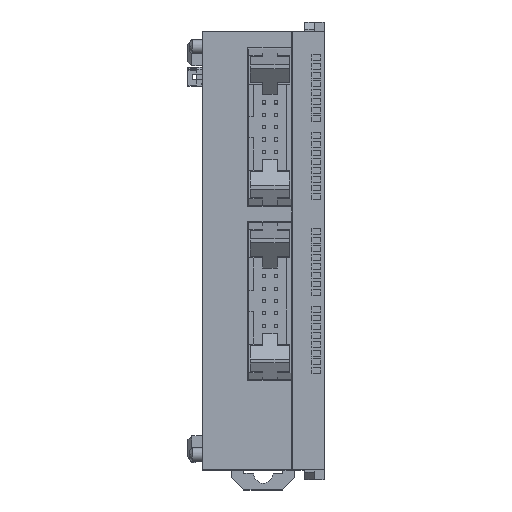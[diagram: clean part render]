
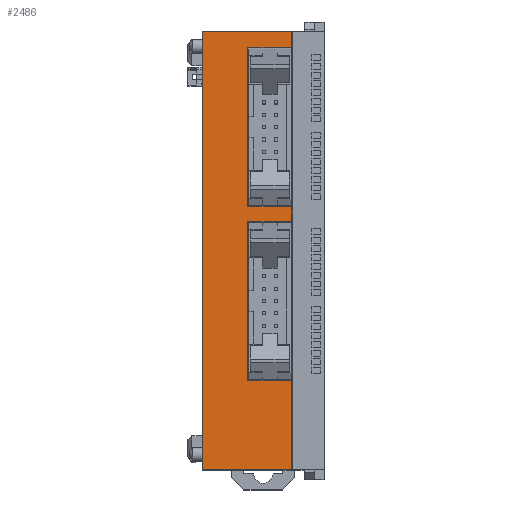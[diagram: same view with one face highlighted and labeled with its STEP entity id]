
A CAD part, top view. The second image highlights one B-rep face of the part: STEP entity #2486.
In plain terms, the highlighted planar face has unit normal (0, 0, 1).
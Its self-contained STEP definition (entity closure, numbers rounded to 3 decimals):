
#520 = DIRECTION ( 'NONE',  ( -1., 0., 0. ) ) ;
#521 = VECTOR ( 'NONE', #520, 1000. ) ;
#522 = CARTESIAN_POINT ( 'NONE',  ( -12.5, 45., 60. ) ) ;
#531 = LINE ( 'NONE', #522, #521 ) ;
#954 = VERTEX_POINT ( 'NONE', #13728 ) ;
#1006 = EDGE_CURVE ( 'NONE', #3095, #954, #13928, .T. ) ;
#2412 = ORIENTED_EDGE ( 'NONE', *, *, #2499, .F. ) ;
#2442 = EDGE_LOOP ( 'NONE', ( #2456, #2455, #2510, #2509, #2484, #2412, #2491, #2507, #2505, #2504, #2495, #2483 ) ) ;
#2454 = VERTEX_POINT ( 'NONE', #13306 ) ;
#2455 = ORIENTED_EDGE ( 'NONE', *, *, #2464, .F. ) ;
#2456 = ORIENTED_EDGE ( 'NONE', *, *, #2459, .F. ) ;
#2459 = EDGE_CURVE ( 'NONE', #2454, #3095, #13432, .T. ) ;
#2461 = EDGE_CURVE ( 'NONE', #2485, #2463, #13424, .T. ) ;
#2463 = VERTEX_POINT ( 'NONE', #13418 ) ;
#2464 = EDGE_CURVE ( 'NONE', #2463, #2454, #13313, .T. ) ;
#2479 = VERTEX_POINT ( 'NONE', #13486 ) ;
#2483 = ORIENTED_EDGE ( 'NONE', *, *, #1006, .F. ) ;
#2484 = ORIENTED_EDGE ( 'NONE', *, *, #2496, .F. ) ;
#2485 = VERTEX_POINT ( 'NONE', #13477 ) ;
#2486 = ADVANCED_FACE ( 'NONE', ( #13457 ), #13405, .T. ) ;
#2491 = ORIENTED_EDGE ( 'NONE', *, *, #2494, .F. ) ;
#2492 = VERTEX_POINT ( 'NONE', #13472 ) ;
#2493 = VERTEX_POINT ( 'NONE', #13443 ) ;
#2494 = EDGE_CURVE ( 'NONE', #11469, #2492, #13452, .T. ) ;
#2495 = ORIENTED_EDGE ( 'NONE', *, *, #12149, .T. ) ;
#2496 = EDGE_CURVE ( 'NONE', #2479, #2493, #13559, .T. ) ;
#2499 = EDGE_CURVE ( 'NONE', #2492, #2479, #13531, .T. ) ;
#2500 = EDGE_CURVE ( 'NONE', #2493, #2485, #13520, .T. ) ;
#2504 = ORIENTED_EDGE ( 'NONE', *, *, #3813, .T. ) ;
#2505 = ORIENTED_EDGE ( 'NONE', *, *, #29115, .T. ) ;
#2507 = ORIENTED_EDGE ( 'NONE', *, *, #11499, .F. ) ;
#2509 = ORIENTED_EDGE ( 'NONE', *, *, #2500, .F. ) ;
#2510 = ORIENTED_EDGE ( 'NONE', *, *, #2461, .F. ) ;
#3095 = VERTEX_POINT ( 'NONE', #15282 ) ;
#3813 = EDGE_CURVE ( 'NONE', #3866, #3817, #16347, .T. ) ;
#3817 = VERTEX_POINT ( 'NONE', #16338 ) ;
#3866 = VERTEX_POINT ( 'NONE', #16401 ) ;
#11469 = VERTEX_POINT ( 'NONE', #27566 ) ;
#11498 = VERTEX_POINT ( 'NONE', #27610 ) ;
#11499 = EDGE_CURVE ( 'NONE', #11498, #11469, #27551, .T. ) ;
#12149 = EDGE_CURVE ( 'NONE', #3817, #954, #28243, .T. ) ;
#13306 = CARTESIAN_POINT ( 'NONE',  ( -3.2, -26.7, 60. ) ) ;
#13313 = LINE ( 'NONE', #13409, #13407 ) ;
#13405 = PLANE ( 'NONE',  #13456 ) ;
#13406 = DIRECTION ( 'NONE',  ( 0., -1., 0. ) ) ;
#13407 = VECTOR ( 'NONE', #13406, 1000. ) ;
#13409 = CARTESIAN_POINT ( 'NONE',  ( -3.2, 6., 60. ) ) ;
#13418 = CARTESIAN_POINT ( 'NONE',  ( -3.2, 6., 60. ) ) ;
#13419 = DIRECTION ( 'NONE',  ( -1., 0., 0. ) ) ;
#13421 = VECTOR ( 'NONE', #13419, 1000. ) ;
#13423 = CARTESIAN_POINT ( 'NONE',  ( 5.8, 6., 60. ) ) ;
#13424 = LINE ( 'NONE', #13423, #13421 ) ;
#13429 = DIRECTION ( 'NONE',  ( 1., 0., 0. ) ) ;
#13430 = VECTOR ( 'NONE', #13429, 1000. ) ;
#13431 = CARTESIAN_POINT ( 'NONE',  ( 5.8, -26.7, 60. ) ) ;
#13432 = LINE ( 'NONE', #13431, #13430 ) ;
#13443 = CARTESIAN_POINT ( 'NONE',  ( 5.8, 9., 60. ) ) ;
#13445 = DIRECTION ( 'NONE',  ( 1., 0., 0. ) ) ;
#13447 = DIRECTION ( 'NONE',  ( 0., 0., 1. ) ) ;
#13452 = LINE ( 'NONE', #13554, #13553 ) ;
#13456 = AXIS2_PLACEMENT_3D ( 'NONE', #13461, #13447, #13445 ) ;
#13457 = FACE_OUTER_BOUND ( 'NONE', #2442, .T. ) ;
#13461 = CARTESIAN_POINT ( 'NONE',  ( -12.5, -45., 60. ) ) ;
#13472 = CARTESIAN_POINT ( 'NONE',  ( -3.2, 41.7, 60. ) ) ;
#13477 = CARTESIAN_POINT ( 'NONE',  ( 5.8, 6., 60. ) ) ;
#13486 = CARTESIAN_POINT ( 'NONE',  ( -3.2, 9., 60. ) ) ;
#13515 = DIRECTION ( 'NONE',  ( 0., -1., 0. ) ) ;
#13516 = VECTOR ( 'NONE', #13515, 1000. ) ;
#13519 = CARTESIAN_POINT ( 'NONE',  ( 5.8, 45., 60. ) ) ;
#13520 = LINE ( 'NONE', #13519, #13516 ) ;
#13523 = DIRECTION ( 'NONE',  ( 0., -1., 0. ) ) ;
#13524 = VECTOR ( 'NONE', #13523, 1000. ) ;
#13526 = CARTESIAN_POINT ( 'NONE',  ( -3.2, 41.7, 60. ) ) ;
#13531 = LINE ( 'NONE', #13526, #13524 ) ;
#13544 = DIRECTION ( 'NONE',  ( 1., 0., 0. ) ) ;
#13546 = VECTOR ( 'NONE', #13544, 1000. ) ;
#13551 = DIRECTION ( 'NONE',  ( -1., 0., 0. ) ) ;
#13553 = VECTOR ( 'NONE', #13551, 1000. ) ;
#13554 = CARTESIAN_POINT ( 'NONE',  ( 5.8, 41.7, 60. ) ) ;
#13558 = CARTESIAN_POINT ( 'NONE',  ( 5.8, 9., 60. ) ) ;
#13559 = LINE ( 'NONE', #13558, #13546 ) ;
#13728 = CARTESIAN_POINT ( 'NONE',  ( 5.8, -45., 60. ) ) ;
#13909 = DIRECTION ( 'NONE',  ( 0., -1., 0. ) ) ;
#13911 = VECTOR ( 'NONE', #13909, 1000. ) ;
#13913 = CARTESIAN_POINT ( 'NONE',  ( 5.8, 45., 60. ) ) ;
#13928 = LINE ( 'NONE', #13913, #13911 ) ;
#15282 = CARTESIAN_POINT ( 'NONE',  ( 5.8, -26.7, 60. ) ) ;
#16336 = DIRECTION ( 'NONE',  ( 0., -1., 0. ) ) ;
#16337 = VECTOR ( 'NONE', #16336, 1000. ) ;
#16338 = CARTESIAN_POINT ( 'NONE',  ( -12.5, -45., 60. ) ) ;
#16347 = LINE ( 'NONE', #16360, #16337 ) ;
#16360 = CARTESIAN_POINT ( 'NONE',  ( -12.5, 45., 60. ) ) ;
#16401 = CARTESIAN_POINT ( 'NONE',  ( -12.5, 45., 60. ) ) ;
#27550 = CARTESIAN_POINT ( 'NONE',  ( 5.8, 45., 60. ) ) ;
#27551 = LINE ( 'NONE', #27550, #27600 ) ;
#27566 = CARTESIAN_POINT ( 'NONE',  ( 5.8, 41.7, 60. ) ) ;
#27599 = DIRECTION ( 'NONE',  ( 0., -1., 0. ) ) ;
#27600 = VECTOR ( 'NONE', #27599, 1000. ) ;
#27610 = CARTESIAN_POINT ( 'NONE',  ( 5.8, 45., 60. ) ) ;
#28238 = DIRECTION ( 'NONE',  ( 1., 0., 0. ) ) ;
#28239 = VECTOR ( 'NONE', #28238, 1000. ) ;
#28240 = CARTESIAN_POINT ( 'NONE',  ( -12.5, -45., 60. ) ) ;
#28243 = LINE ( 'NONE', #28240, #28239 ) ;
#29115 = EDGE_CURVE ( 'NONE', #11498, #3866, #531, .T. ) ;
